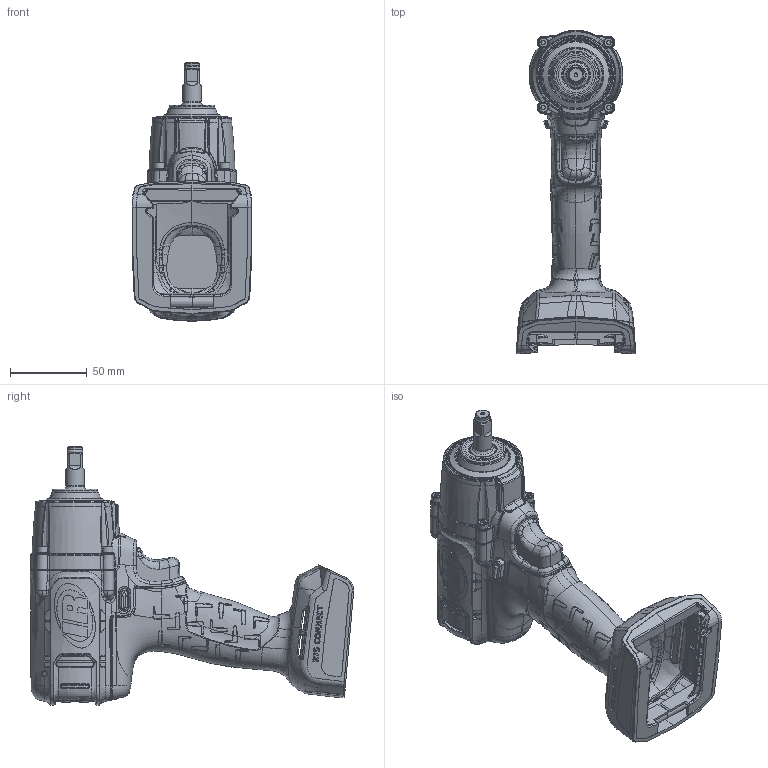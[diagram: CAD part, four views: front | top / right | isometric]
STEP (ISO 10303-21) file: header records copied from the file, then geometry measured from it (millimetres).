
FILE_DESCRIPTION(/* description */ (''),/* implementation_level */ '2;1');
FILE_NAME(/* name */ '83ring.stp',/* time_stamp */ '2024-05-27T19:02:25+08:00',/* author */ (''),/* organization */ (''),/* preprocessor_version */ 'ST-DEVELOPER v14',/* originating_system */ 'SIEMENS PLM Software NX 8.0',/* authorisation */ '');
FILE_SCHEMA (('AUTOMOTIVE_DESIGN { 1 0 10303 214 3 1 1 1 }'));
Products named in the file (1): admi4244EEC34gmf
Bounding box: 77.93 x 210.09 x 167.98 mm (x, y, z)
Volume: 547006.8 mm3; surface area: 101499.4 mm2
Topology: 1 solids, 51 shells, 5317 faces, 13684 edges, 8518 vertices
Faces by surface type: bspline 2968, plane 1050, cylinder 628, extrusion 439, cone 129, torus 74, sphere 22, revolution 7
Full cylindrical faces by diameter (mm): 1.66 x2, 2 x1, 2.9 x5, 3.1 x4, 3.9 x4, 6.4 x4, 6.6 x4, 9.45 x1, 11.6 x1, 12 x1, 17 x1, 29.5 x1, 45 x1
Entity records: 366390 total; most frequent: CARTESIAN_POINT 264397, ORIENTED_EDGE 27006, EDGE_CURVE 13503, DIRECTION 11811, B_SPLINE_CURVE_WITH_KNOTS 8578, VERTEX_POINT 8464, EDGE_LOOP 5540, ADVANCED_FACE 5316
